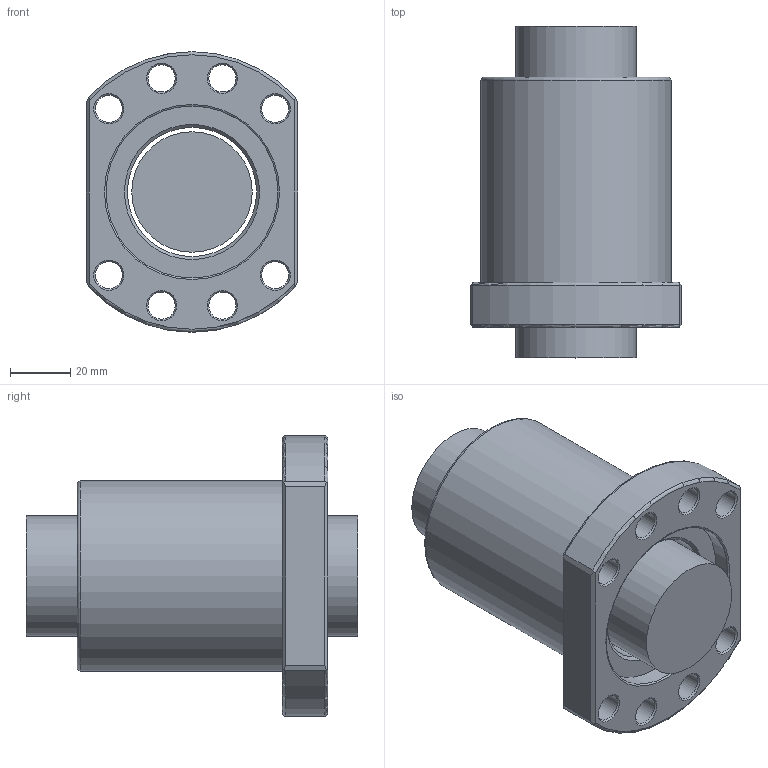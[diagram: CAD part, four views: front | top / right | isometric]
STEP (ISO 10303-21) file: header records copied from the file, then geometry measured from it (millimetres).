
FILE_DESCRIPTION(/* description */ (''),/* implementation_level */ '2;1');
FILE_NAME(/* name */ '4020.prt.step',/* time_stamp */ '2008-12-05T09:30:43+08:00',/* author */ (''),/* organization */ (''),/* preprocessor_version */ 'ST-DEVELOPER v11',/* originating_system */ 'SIEMENS UGS NX 6.0',/* authorisation */ '');
FILE_SCHEMA (('AUTOMOTIVE_DESIGN { 1 0 10303 214 1 1 1 1 }'));
Length unit declared in the file: millimetre
Products named in the file (1): 4020
Bounding box: 70 x 110 x 93 mm (x, y, z)
Volume: 296408.1 mm3; surface area: 56101.1 mm2
Topology: 2 solids, 2 shells, 57 faces, 133 edges, 83 vertices
Faces by surface type: cone 18, plane 17, cylinder 15, torus 7
Full cylindrical faces by diameter (mm): 9 x8, 39.95 x1, 42.8 x1, 57 x2, 63 x1
Entity records: 1694 total; most frequent: CARTESIAN_POINT 472, DIRECTION 250, ORIENTED_EDGE 190, AXIS2_PLACEMENT_3D 113, EDGE_LOOP 112, EDGE_CURVE 95, FACE_BOUND 94, VERTEX_POINT 79
